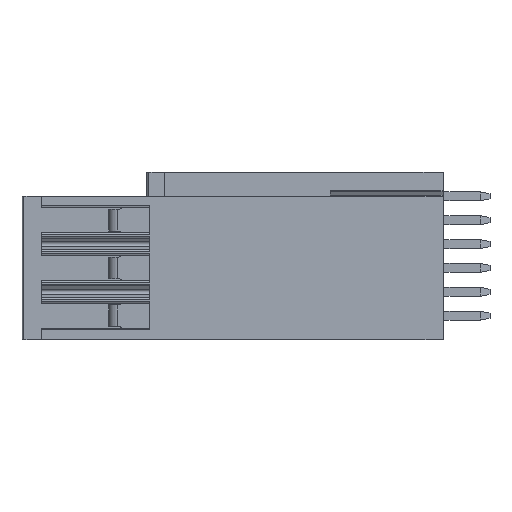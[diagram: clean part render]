
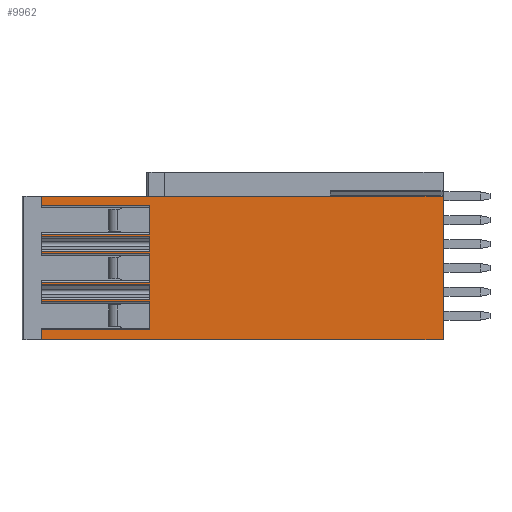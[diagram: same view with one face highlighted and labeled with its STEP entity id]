
A CAD part, left-side view. The second image highlights one B-rep face of the part: STEP entity #9962.
In plain terms, the highlighted planar face has unit normal (-1, 0, 0).
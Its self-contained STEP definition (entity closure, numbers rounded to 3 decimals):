
#212=DIRECTION('',(0.,0.,-1.));
#213=VECTOR('',#212,0.21);
#214=CARTESIAN_POINT('',(0.,42.7,-11.674));
#215=LINE('',#214,#213);
#239=DIRECTION('',(0.,0.,-1.));
#240=VECTOR('',#239,0.21);
#241=CARTESIAN_POINT('',(0.,42.7,-13.516));
#242=LINE('',#241,#240);
#272=DIRECTION('',(0.,1.,0.));
#273=VECTOR('',#272,11.5);
#274=CARTESIAN_POINT('',(0.,31.2,-11.674));
#275=LINE('',#274,#273);
#276=DIRECTION('',(0.,0.,-1.));
#277=VECTOR('',#276,15.24);
#278=CARTESIAN_POINT('',(0.,0.,-2.54));
#279=LINE('',#278,#277);
#280=DIRECTION('',(0.,1.,0.));
#281=VECTOR('',#280,42.7);
#282=CARTESIAN_POINT('',(0.,0.,-17.78));
#283=LINE('',#282,#281);
#284=DIRECTION('',(0.,0.,1.));
#285=VECTOR('',#284,3.028);
#286=CARTESIAN_POINT('',(0.,31.2,-16.754));
#287=LINE('',#286,#285);
#288=DIRECTION('',(0.,0.,1.));
#289=VECTOR('',#288,1.631);
#290=CARTESIAN_POINT('',(0.,31.2,-13.516));
#291=LINE('',#290,#289);
#292=DIRECTION('',(0.,0.,1.));
#293=VECTOR('',#292,3.028);
#294=CARTESIAN_POINT('',(0.,31.2,-11.674));
#295=LINE('',#294,#293);
#296=DIRECTION('',(0.,0.,1.));
#297=VECTOR('',#296,1.631);
#298=CARTESIAN_POINT('',(0.,31.2,-8.436));
#299=LINE('',#298,#297);
#300=DIRECTION('',(0.,0.,1.));
#301=VECTOR('',#300,3.028);
#302=CARTESIAN_POINT('',(0.,31.2,-6.594));
#303=LINE('',#302,#301);
#308=DIRECTION('',(0.,-1.,0.));
#309=VECTOR('',#308,11.5);
#310=CARTESIAN_POINT('',(0.,42.7,-3.566));
#311=LINE('',#310,#309);
#324=DIRECTION('',(0.,0.,-1.));
#325=VECTOR('',#324,1.026);
#326=CARTESIAN_POINT('',(0.,42.7,-2.54));
#327=LINE('',#326,#325);
#357=DIRECTION('',(0.,1.,0.));
#358=VECTOR('',#357,42.7);
#359=CARTESIAN_POINT('',(0.,0.,-2.54));
#360=LINE('',#359,#358);
#6730=DIRECTION('',(0.,0.,-1.));
#6731=VECTOR('',#6730,1.026);
#6732=CARTESIAN_POINT('',(0.,42.7,
-16.754));
#6733=LINE('',#6732,#6731);
#6754=DIRECTION('',(0.,1.,0.));
#6755=VECTOR('',#6754,11.5);
#6756=CARTESIAN_POINT('',(0.,31.2,
-16.754));
#6757=LINE('',#6756,#6755);
#6794=DIRECTION('',(0.,-1.,0.));
#6795=VECTOR('',#6794,11.5);
#6796=CARTESIAN_POINT('',(0.,42.7,
-13.726));
#6797=LINE('',#6796,#6795);
#6798=DIRECTION('',(0.,1.,0.));
#6799=VECTOR('',#6798,11.5);
#6800=CARTESIAN_POINT('',(0.,31.2,
-13.516));
#6801=LINE('',#6800,#6799);
#6833=DIRECTION('',(0.,-1.,0.));
#6834=VECTOR('',#6833,11.5);
#6835=CARTESIAN_POINT('',(0.,42.7,
-11.884));
#6836=LINE('',#6835,#6834);
#6849=DIRECTION('',(0.,-1.,0.));
#6850=VECTOR('',#6849,11.5);
#6851=CARTESIAN_POINT('',(0.,42.7,
-8.646));
#6852=LINE('',#6851,#6850);
#6878=DIRECTION('',(0.,0.,-1.));
#6879=VECTOR('',#6878,0.21);
#6880=CARTESIAN_POINT('',(0.,42.7,
-6.594));
#6881=LINE('',#6880,#6879);
#6905=DIRECTION('',(0.,0.,-1.));
#6906=VECTOR('',#6905,0.21);
#6907=CARTESIAN_POINT('',(0.,42.7,
-8.436));
#6908=LINE('',#6907,#6906);
#6938=DIRECTION('',(0.,1.,0.));
#6939=VECTOR('',#6938,11.5);
#6940=CARTESIAN_POINT('',(0.,31.2,
-6.594));
#6941=LINE('',#6940,#6939);
#6946=DIRECTION('',(0.,-1.,0.));
#6947=VECTOR('',#6946,11.5);
#6948=CARTESIAN_POINT('',(0.,42.7,
-6.804));
#6949=LINE('',#6948,#6947);
#6973=DIRECTION('',(0.,1.,0.));
#6974=VECTOR('',#6973,11.5);
#6975=CARTESIAN_POINT('',(0.,31.2,
-8.436));
#6976=LINE('',#6975,#6974);
#7451=CARTESIAN_POINT('',(0.,0.,-17.78));
#7452=VERTEX_POINT('',#7451);
#7453=CARTESIAN_POINT('',(0.,0.,-2.54));
#7454=VERTEX_POINT('',#7453);
#8199=CARTESIAN_POINT('',(0.,42.7,
-3.566));
#8200=VERTEX_POINT('',#8199);
#8201=CARTESIAN_POINT('',(0.,31.2,
-3.566));
#8202=VERTEX_POINT('',#8201);
#8203=CARTESIAN_POINT('',(0.,42.7,-2.54));
#8204=VERTEX_POINT('',#8203);
#8241=CARTESIAN_POINT('',(0.,42.7,-17.78));
#8242=VERTEX_POINT('',#8241);
#8243=CARTESIAN_POINT('',(0.,42.7,
-16.754));
#8244=VERTEX_POINT('',#8243);
#8245=CARTESIAN_POINT('',(0.,31.2,
-16.754));
#8246=VERTEX_POINT('',#8245);
#8247=CARTESIAN_POINT('',(0.,31.2,
-13.726));
#8248=VERTEX_POINT('',#8247);
#8249=CARTESIAN_POINT('',(0.,42.7,
-13.726));
#8250=VERTEX_POINT('',#8249);
#8251=CARTESIAN_POINT('',(0.,42.7,
-13.516));
#8252=VERTEX_POINT('',#8251);
#8253=CARTESIAN_POINT('',(0.,31.2,
-13.516));
#8254=VERTEX_POINT('',#8253);
#8255=CARTESIAN_POINT('',(0.,31.2,
-11.884));
#8256=VERTEX_POINT('',#8255);
#8257=CARTESIAN_POINT('',(0.,42.7,
-11.884));
#8258=VERTEX_POINT('',#8257);
#8259=CARTESIAN_POINT('',(0.,42.7,
-11.674));
#8260=VERTEX_POINT('',#8259);
#8261=CARTESIAN_POINT('',(0.,31.2,
-11.674));
#8262=VERTEX_POINT('',#8261);
#8263=CARTESIAN_POINT('',(0.,31.2,
-8.646));
#8264=VERTEX_POINT('',#8263);
#8265=CARTESIAN_POINT('',(0.,42.7,
-8.646));
#8266=VERTEX_POINT('',#8265);
#8267=CARTESIAN_POINT('',(0.,42.7,
-8.436));
#8268=VERTEX_POINT('',#8267);
#8269=CARTESIAN_POINT('',(0.,31.2,
-8.436));
#8270=VERTEX_POINT('',#8269);
#8271=CARTESIAN_POINT('',(0.,31.2,
-6.804));
#8272=VERTEX_POINT('',#8271);
#8273=CARTESIAN_POINT('',(0.,42.7,
-6.804));
#8274=VERTEX_POINT('',#8273);
#8275=CARTESIAN_POINT('',(0.,42.7,
-6.594));
#8276=VERTEX_POINT('',#8275);
#8277=CARTESIAN_POINT('',(0.,31.2,
-6.594));
#8278=VERTEX_POINT('',#8277);
#9913=CARTESIAN_POINT('',(0.,36.8,-17.78));
#9914=DIRECTION('',(-1.,0.,0.));
#9915=DIRECTION('',(0.,-1.,0.));
#9916=AXIS2_PLACEMENT_3D('',#9913,#9914,#9915);
#9917=PLANE('',#9916);
#9919=ORIENTED_EDGE('',*,*,#9918,.F.);
#9921=ORIENTED_EDGE('',*,*,#9920,.F.);
#9923=ORIENTED_EDGE('',*,*,#9922,.F.);
#9925=ORIENTED_EDGE('',*,*,#9924,.T.);
#9927=ORIENTED_EDGE('',*,*,#9926,.T.);
#9929=ORIENTED_EDGE('',*,*,#9928,.F.);
#9931=ORIENTED_EDGE('',*,*,#9930,.F.);
#9932=ORIENTED_EDGE('',*,*,#9724,.T.);
#9934=ORIENTED_EDGE('',*,*,#9933,.F.);
#9935=ORIENTED_EDGE('',*,*,#9865,.F.);
#9937=ORIENTED_EDGE('',*,*,#9936,.F.);
#9939=ORIENTED_EDGE('',*,*,#9938,.T.);
#9941=ORIENTED_EDGE('',*,*,#9940,.F.);
#9942=ORIENTED_EDGE('',*,*,#9853,.F.);
#9943=ORIENTED_EDGE('',*,*,#9908,.F.);
#9944=ORIENTED_EDGE('',*,*,#9757,.T.);
#9946=ORIENTED_EDGE('',*,*,#9945,.F.);
#9948=ORIENTED_EDGE('',*,*,#9947,.F.);
#9950=ORIENTED_EDGE('',*,*,#9949,.F.);
#9952=ORIENTED_EDGE('',*,*,#9951,.T.);
#9954=ORIENTED_EDGE('',*,*,#9953,.F.);
#9956=ORIENTED_EDGE('',*,*,#9955,.F.);
#9958=ORIENTED_EDGE('',*,*,#9957,.F.);
#9959=ORIENTED_EDGE('',*,*,#9797,.T.);
#9960=EDGE_LOOP('',(#9919,#9921,#9923,#9925,#9927,#9929,#9931,#9932,#9934,#9935,
#9937,#9939,#9941,#9942,#9943,#9944,#9946,#9948,#9950,#9952,#9954,#9956,#9958,
#9959));
#9961=FACE_OUTER_BOUND('',#9960,.F.);
#9962=ADVANCED_FACE('',(#9961),#9917,.T.);
#9724=EDGE_CURVE('',#8246,#8248,#287,.T.);
#9757=EDGE_CURVE('',#8262,#8264,#295,.T.);
#9797=EDGE_CURVE('',#8278,#8202,#303,.T.);
#9853=EDGE_CURVE('',#8260,#8258,#215,.T.);
#9865=EDGE_CURVE('',#8252,#8250,#242,.T.);
#9908=EDGE_CURVE('',#8262,#8260,#275,.T.);
#9918=EDGE_CURVE('',#8200,#8202,#311,.T.);
#9920=EDGE_CURVE('',#8204,#8200,#327,.T.);
#9922=EDGE_CURVE('',#7454,#8204,#360,.T.);
#9924=EDGE_CURVE('',#7454,#7452,#279,.T.);
#9926=EDGE_CURVE('',#7452,#8242,#283,.T.);
#9928=EDGE_CURVE('',#8244,#8242,#6733,.T.);
#9930=EDGE_CURVE('',#8246,#8244,#6757,.T.);
#9933=EDGE_CURVE('',#8250,#8248,#6797,.T.);
#9936=EDGE_CURVE('',#8254,#8252,#6801,.T.);
#9938=EDGE_CURVE('',#8254,#8256,#291,.T.);
#9940=EDGE_CURVE('',#8258,#8256,#6836,.T.);
#9945=EDGE_CURVE('',#8266,#8264,#6852,.T.);
#9947=EDGE_CURVE('',#8268,#8266,#6908,.T.);
#9949=EDGE_CURVE('',#8270,#8268,#6976,.T.);
#9951=EDGE_CURVE('',#8270,#8272,#299,.T.);
#9953=EDGE_CURVE('',#8274,#8272,#6949,.T.);
#9955=EDGE_CURVE('',#8276,#8274,#6881,.T.);
#9957=EDGE_CURVE('',#8278,#8276,#6941,.T.);
